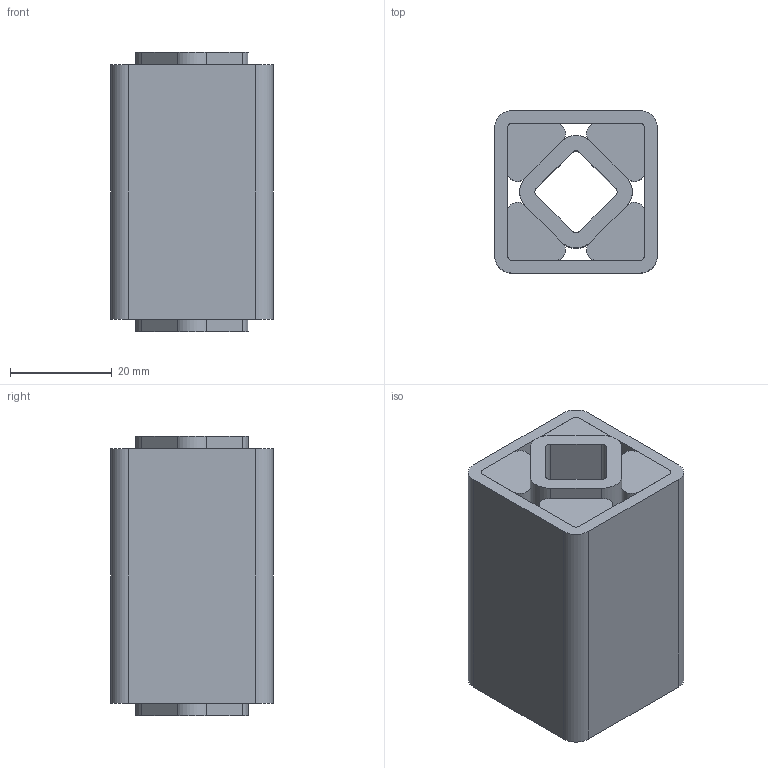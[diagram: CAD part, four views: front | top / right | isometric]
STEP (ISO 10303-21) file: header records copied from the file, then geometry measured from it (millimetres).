
FILE_DESCRIPTION((''),'2;1');
FILE_NAME('D:\ROSTA\Gummifederelemente\3D\DR-S18x50_01021008.stp','2005-02-02T04:44:40',('Administrator'),(''),'Autodesk Inventor 8','Autodesk Inventor 8','');
FILE_SCHEMA(('AUTOMOTIVE_DESIGN { 1 0 10303 214 1 1 1 1 }'));
Length unit declared in the file: millimetre
Products named in the file (4): Baugruppe5; 4.4.3727-005; 4.4.3727-006; 4.4.3727-007
Assembly tree (6 placements, depth 2):
  Baugruppe5
    4.4.3727-005
    4.4.3727-006
    4.4.3727-007  x4
Bounding box: 32 x 32 x 55 mm (x, y, z)
Volume: 41807.5 mm3; surface area: 26862.4 mm2
Topology: 6 solids, 6 shells, 68 faces, 168 edges, 112 vertices
Faces by surface type: plane 40, cylinder 28
Entity records: 1491 total; most frequent: DIRECTION 260, CARTESIAN_POINT 244, ORIENTED_EDGE 228, EDGE_CURVE 114, AXIS2_PLACEMENT_3D 92, VERTEX_POINT 76, VECTOR 76, LINE 76
